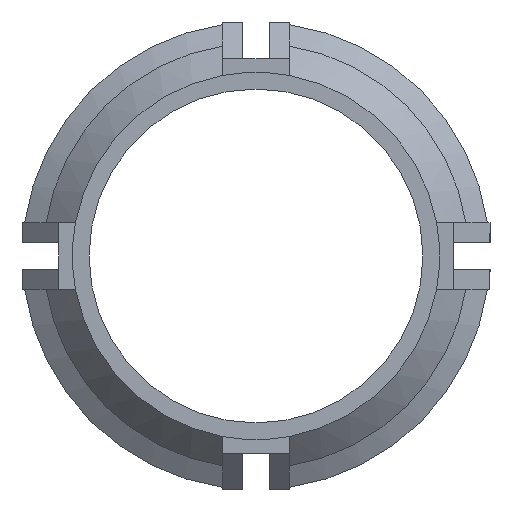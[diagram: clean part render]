
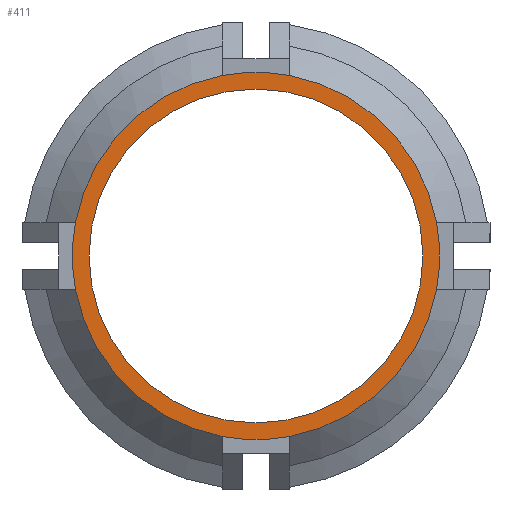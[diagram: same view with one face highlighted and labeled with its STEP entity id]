
A CAD part, front view. The second image highlights one B-rep face of the part: STEP entity #411.
In plain terms, the highlighted planar face has unit normal (0, -1, 0).
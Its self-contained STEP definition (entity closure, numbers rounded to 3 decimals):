
#114 = AXIS2_PLACEMENT_3D ( 'NONE', #3735, #4191, #4572 ) ;
#200 = VERTEX_POINT ( 'NONE', #1559 ) ;
#249 = CARTESIAN_POINT ( 'NONE',  ( 0., -14., 0. ) ) ;
#411 = ADVANCED_FACE ( 'NONE', ( #4075, #1402 ), #2942, .F. ) ;
#413 = ORIENTED_EDGE ( 'NONE', *, *, #2903, .T. ) ;
#436 = VERTEX_POINT ( 'NONE', #3220 ) ;
#596 = CARTESIAN_POINT ( 'NONE',  ( 0., -14., 0. ) ) ;
#634 = DIRECTION ( 'NONE',  ( 0., -1., 0. ) ) ;
#641 = DIRECTION ( 'NONE',  ( 0., 0., 1. ) ) ;
#657 = ORIENTED_EDGE ( 'NONE', *, *, #4023, .T. ) ;
#743 = ORIENTED_EDGE ( 'NONE', *, *, #945, .T. ) ;
#755 = AXIS2_PLACEMENT_3D ( 'NONE', #1328, #3253, #2947 ) ;
#757 = DIRECTION ( 'NONE',  ( 0., -1., 0. ) ) ;
#917 = EDGE_CURVE ( 'NONE', #1416, #3636, #1879, .T. ) ;
#945 = EDGE_CURVE ( 'NONE', #200, #1416, #2356, .T. ) ;
#975 = EDGE_CURVE ( 'NONE', #3609, #436, #3564, .T. ) ;
#1007 = ORIENTED_EDGE ( 'NONE', *, *, #3915, .T. ) ;
#1010 = DIRECTION ( 'NONE',  ( 0., 0., 1. ) ) ;
#1036 = EDGE_CURVE ( 'NONE', #436, #3609, #3962, .T. ) ;
#1044 = CARTESIAN_POINT ( 'NONE',  ( -1., -14., 5.408 ) ) ;
#1113 = CARTESIAN_POINT ( 'NONE',  ( 0., -14., 0. ) ) ;
#1301 = CARTESIAN_POINT ( 'NONE',  ( -5.408, -14., 1. ) ) ;
#1314 = DIRECTION ( 'NONE',  ( 0., 0., 1. ) ) ;
#1328 = CARTESIAN_POINT ( 'NONE',  ( 0., -14., 0. ) ) ;
#1400 = CARTESIAN_POINT ( 'NONE',  ( -1., -14., -5.408 ) ) ;
#1402 = FACE_OUTER_BOUND ( 'NONE', #2418, .T. ) ;
#1416 = VERTEX_POINT ( 'NONE', #2982 ) ;
#1483 = AXIS2_PLACEMENT_3D ( 'NONE', #1113, #4595, #4950 ) ;
#1559 = CARTESIAN_POINT ( 'NONE',  ( 5.408, -14., 1. ) ) ;
#1630 = CIRCLE ( 'NONE', #3891, 5.5 ) ;
#1633 = CARTESIAN_POINT ( 'NONE',  ( 5.408, -14., -1. ) ) ;
#1755 = CARTESIAN_POINT ( 'NONE',  ( 0., -14., 0. ) ) ;
#1786 = AXIS2_PLACEMENT_3D ( 'NONE', #2795, #4655, #3470 ) ;
#1879 = CIRCLE ( 'NONE', #755, 5.5 ) ;
#1944 = VERTEX_POINT ( 'NONE', #1400 ) ;
#2117 = ORIENTED_EDGE ( 'NONE', *, *, #4847, .T. ) ;
#2155 = DIRECTION ( 'NONE',  ( 0., 0., 1. ) ) ;
#2168 = DIRECTION ( 'NONE',  ( 0., -1., 0. ) ) ;
#2187 = EDGE_CURVE ( 'NONE', #3112, #2455, #1630, .T. ) ;
#2200 = CIRCLE ( 'NONE', #2446, 5.5 ) ;
#2356 = CIRCLE ( 'NONE', #4687, 5.5 ) ;
#2381 = ORIENTED_EDGE ( 'NONE', *, *, #1036, .F. ) ;
#2404 = ORIENTED_EDGE ( 'NONE', *, *, #4984, .T. ) ;
#2418 = EDGE_LOOP ( 'NONE', ( #4053, #2117, #2404, #1007, #413, #743, #2988, #657 ) ) ;
#2446 = AXIS2_PLACEMENT_3D ( 'NONE', #3708, #4705, #641 ) ;
#2455 = VERTEX_POINT ( 'NONE', #3514 ) ;
#2458 = CIRCLE ( 'NONE', #2534, 5.5 ) ;
#2534 = AXIS2_PLACEMENT_3D ( 'NONE', #4879, #2168, #4902 ) ;
#2795 = CARTESIAN_POINT ( 'NONE',  ( 0., -14., 0. ) ) ;
#2833 = CARTESIAN_POINT ( 'NONE',  ( 0., -14., 0. ) ) ;
#2903 = EDGE_CURVE ( 'NONE', #4221, #200, #4063, .T. ) ;
#2907 = AXIS2_PLACEMENT_3D ( 'NONE', #1755, #4456, #4482 ) ;
#2942 = PLANE ( 'NONE',  #2907 ) ;
#2947 = DIRECTION ( 'NONE',  ( 1., 0., 0. ) ) ;
#2982 = CARTESIAN_POINT ( 'NONE',  ( 1., -14., 5.408 ) ) ;
#2988 = ORIENTED_EDGE ( 'NONE', *, *, #917, .T. ) ;
#3112 = VERTEX_POINT ( 'NONE', #1301 ) ;
#3126 = ORIENTED_EDGE ( 'NONE', *, *, #975, .F. ) ;
#3160 = AXIS2_PLACEMENT_3D ( 'NONE', #249, #634, #2155 ) ;
#3192 = DIRECTION ( 'NONE',  ( 0., 0., 1. ) ) ;
#3215 = DIRECTION ( 'NONE',  ( 0., -1., 0. ) ) ;
#3220 = CARTESIAN_POINT ( 'NONE',  ( 0., -14., -5. ) ) ;
#3253 = DIRECTION ( 'NONE',  ( 0., -1., 0. ) ) ;
#3340 = CIRCLE ( 'NONE', #4713, 5.5 ) ;
#3470 = DIRECTION ( 'NONE',  ( 0., 0., 1. ) ) ;
#3514 = CARTESIAN_POINT ( 'NONE',  ( -5.408, -14., -1. ) ) ;
#3564 = CIRCLE ( 'NONE', #3160, 5. ) ;
#3595 = DIRECTION ( 'NONE',  ( 0., -1., 0. ) ) ;
#3609 = VERTEX_POINT ( 'NONE', #4883 ) ;
#3636 = VERTEX_POINT ( 'NONE', #1044 ) ;
#3656 = CIRCLE ( 'NONE', #114, 5.5 ) ;
#3708 = CARTESIAN_POINT ( 'NONE',  ( 0., -14., 0. ) ) ;
#3735 = CARTESIAN_POINT ( 'NONE',  ( 0., -14., 0. ) ) ;
#3891 = AXIS2_PLACEMENT_3D ( 'NONE', #596, #3215, #3192 ) ;
#3915 = EDGE_CURVE ( 'NONE', #3950, #4221, #2200, .T. ) ;
#3950 = VERTEX_POINT ( 'NONE', #3968 ) ;
#3962 = CIRCLE ( 'NONE', #1786, 5. ) ;
#3968 = CARTESIAN_POINT ( 'NONE',  ( 1., -14., -5.408 ) ) ;
#4023 = EDGE_CURVE ( 'NONE', #3636, #3112, #3656, .T. ) ;
#4053 = ORIENTED_EDGE ( 'NONE', *, *, #2187, .T. ) ;
#4063 = CIRCLE ( 'NONE', #1483, 5.5 ) ;
#4075 = FACE_BOUND ( 'NONE', #4107, .T. ) ;
#4107 = EDGE_LOOP ( 'NONE', ( #3126, #2381 ) ) ;
#4191 = DIRECTION ( 'NONE',  ( 0., -1., 0. ) ) ;
#4221 = VERTEX_POINT ( 'NONE', #1633 ) ;
#4435 = CARTESIAN_POINT ( 'NONE',  ( 0., -14., 0. ) ) ;
#4456 = DIRECTION ( 'NONE',  ( 0., 1., 0. ) ) ;
#4482 = DIRECTION ( 'NONE',  ( 0., 0., 1. ) ) ;
#4572 = DIRECTION ( 'NONE',  ( 0., 0., 1. ) ) ;
#4595 = DIRECTION ( 'NONE',  ( 0., -1., 0. ) ) ;
#4655 = DIRECTION ( 'NONE',  ( 0., -1., 0. ) ) ;
#4687 = AXIS2_PLACEMENT_3D ( 'NONE', #4435, #757, #1010 ) ;
#4705 = DIRECTION ( 'NONE',  ( 0., -1., 0. ) ) ;
#4713 = AXIS2_PLACEMENT_3D ( 'NONE', #2833, #3595, #1314 ) ;
#4847 = EDGE_CURVE ( 'NONE', #2455, #1944, #3340, .T. ) ;
#4879 = CARTESIAN_POINT ( 'NONE',  ( 0., -14., 0. ) ) ;
#4883 = CARTESIAN_POINT ( 'NONE',  ( 0., -14., 5. ) ) ;
#4902 = DIRECTION ( 'NONE',  ( -1., 0., 0. ) ) ;
#4950 = DIRECTION ( 'NONE',  ( 0., 0., -1. ) ) ;
#4984 = EDGE_CURVE ( 'NONE', #1944, #3950, #2458, .T. ) ;
